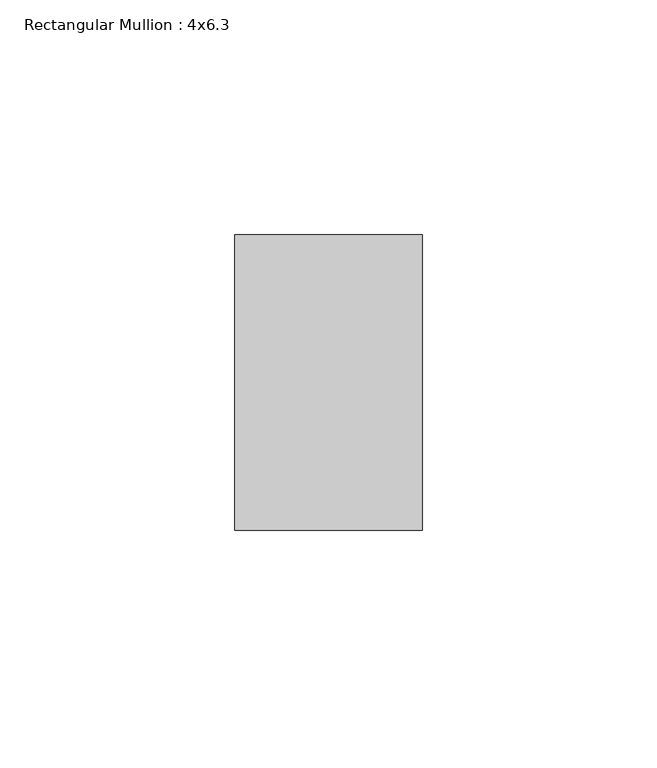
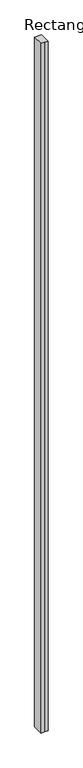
"""IFC4 building model written with IfcOpenShell, lengths in millimetres: member geometry, Rectangular Mullion : 4x6.3."""

from ifc_helpers import new_model, si_unit, frame, origin, place, context, project, spatial, polyline, outline, extrude, source, transform, mapped, element, save


def rectangular_mullion_4x6_3_e3e0838f(model_context):
    return source(origin(), model_context, "Body", "SweptSolid", [
        extrude(outline(polyline([(-20.0, 20.0), (-20.0, 83.0), (20.0, 83.0), (20.0, 20.0), (0.0, 20.0), (-20.0, 20.0)])), frame((0.0, 0.0, -4198.1850317), z_axis=(0.0, 0.0, 1.0), x_axis=(1.0, 0.0, 0.0)), (0.0, 0.0, 1.0), 4198.1850317),
    ])


if __name__ == "__main__":
    model = new_model("IFC4")
    model_context = context("Model", 3, world=origin())
    ifc_project = project(units=[si_unit("LENGTHUNIT", "METRE", prefix="MILLI")], contexts=[model_context])
    site = spatial("IfcSite", under=ifc_project)
    building = spatial("IfcBuilding", under=site)
    placement = place(None, origin())
    rectangular_mullion_4x6_3_shape = rectangular_mullion_4x6_3_e3e0838f(model_context)
    element("IfcMember", 1, ObjectType="Rectangular Mullion : 4x6.3", at=placement, inside=building, context=model_context, shape_type="MappedRepresentation", body=[
        mapped(rectangular_mullion_4x6_3_shape, transform((0.0, 0.0, 0.0), x_axis=(1.0, 0.0, 0.0), y_axis=(0.0, 1.0, 0.0), z_axis=(0.0, 0.0, 1.0))),
    ])
    save(model, "model.ifc")
